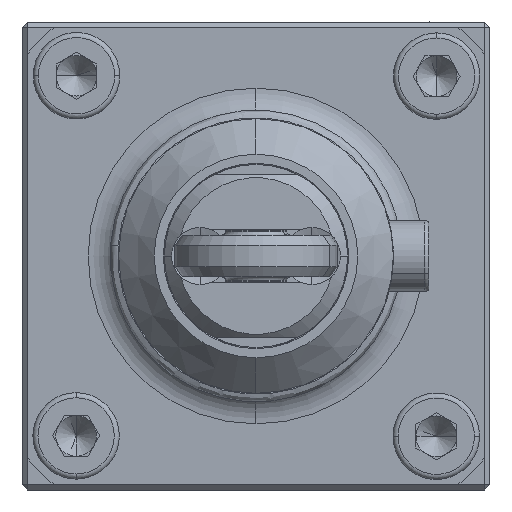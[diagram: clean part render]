
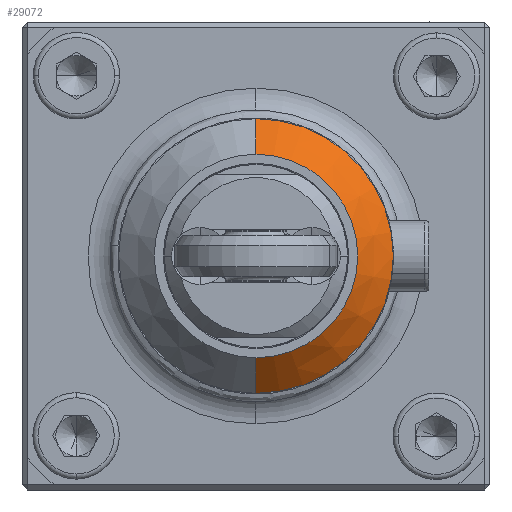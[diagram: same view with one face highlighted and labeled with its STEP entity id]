
A CAD part, left-side view. The second image highlights one B-rep face of the part: STEP entity #29072.
In plain terms, the highlighted conical face has half-angle 45 degrees and reference radius 13.5 mm.
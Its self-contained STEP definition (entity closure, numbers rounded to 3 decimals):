
#270 = DIRECTION ( 'NONE',  ( -1., 0., 0. ) ) ;
#1067 = CARTESIAN_POINT ( 'NONE',  ( -34.4, 0., 0. ) ) ;
#1162 = CARTESIAN_POINT ( 'NONE',  ( -37.9, 0., -10. ) ) ;
#1392 = LINE ( 'NONE', #30281, #18949 ) ;
#2579 = VECTOR ( 'NONE', #17925, 1000. ) ;
#2801 = ORIENTED_EDGE ( 'NONE', *, *, #20511, .F. ) ;
#2836 = ORIENTED_EDGE ( 'NONE', *, *, #28657, .T. ) ;
#3370 = VERTEX_POINT ( 'NONE', #15948 ) ;
#4903 = DIRECTION ( 'NONE',  ( 0., 0., -1. ) ) ;
#5149 = AXIS2_PLACEMENT_3D ( 'NONE', #26274, #270, #21543 ) ;
#5768 = CONICAL_SURFACE ( 'NONE', #14608, 13.5, 0.785 ) ;
#6140 = CARTESIAN_POINT ( 'NONE',  ( -34.4, 0., 13.5 ) ) ;
#7019 = ORIENTED_EDGE ( 'NONE', *, *, #23489, .T. ) ;
#8185 = AXIS2_PLACEMENT_3D ( 'NONE', #17067, #21751, #4903 ) ;
#8583 = DIRECTION ( 'NONE',  ( 0.707, 0., -0.707 ) ) ;
#9656 = LINE ( 'NONE', #6140, #2579 ) ;
#10167 = ORIENTED_EDGE ( 'NONE', *, *, #28884, .F. ) ;
#11716 = CIRCLE ( 'NONE', #5149, 13.5 ) ;
#12297 = VERTEX_POINT ( 'NONE', #24066 ) ;
#14608 = AXIS2_PLACEMENT_3D ( 'NONE', #1067, #17906, #20296 ) ;
#14887 = EDGE_LOOP ( 'NONE', ( #10167, #2836, #7019, #2801 ) ) ;
#15948 = CARTESIAN_POINT ( 'NONE',  ( -37.9, 0., 10. ) ) ;
#17067 = CARTESIAN_POINT ( 'NONE',  ( -37.9, 0., 0. ) ) ;
#17319 = VERTEX_POINT ( 'NONE', #17757 ) ;
#17757 = CARTESIAN_POINT ( 'NONE',  ( -34.4, 0., 13.5 ) ) ;
#17906 = DIRECTION ( 'NONE',  ( 1., 0., 0. ) ) ;
#17925 = DIRECTION ( 'NONE',  ( 0.707, 0., 0.707 ) ) ;
#18949 = VECTOR ( 'NONE', #8583, 1000. ) ;
#19268 = VERTEX_POINT ( 'NONE', #1162 ) ;
#20296 = DIRECTION ( 'NONE',  ( 0., 0., 1. ) ) ;
#20511 = EDGE_CURVE ( 'NONE', #3370, #17319, #9656, .T. ) ;
#21543 = DIRECTION ( 'NONE',  ( 0., 0., -1. ) ) ;
#21751 = DIRECTION ( 'NONE',  ( -1., 0., 0. ) ) ;
#23489 = EDGE_CURVE ( 'NONE', #12297, #17319, #11716, .T. ) ;
#24066 = CARTESIAN_POINT ( 'NONE',  ( -34.4, 0., -13.5 ) ) ;
#25638 = FACE_OUTER_BOUND ( 'NONE', #14887, .T. ) ;
#26274 = CARTESIAN_POINT ( 'NONE',  ( -34.4, 0., 0. ) ) ;
#26775 = CIRCLE ( 'NONE', #8185, 10. ) ;
#28657 = EDGE_CURVE ( 'NONE', #19268, #12297, #1392, .T. ) ;
#28884 = EDGE_CURVE ( 'NONE', #19268, #3370, #26775, .T. ) ;
#29072 = ADVANCED_FACE ( 'NONE', ( #25638 ), #5768, .T. ) ;
#30281 = CARTESIAN_POINT ( 'NONE',  ( -34.4, 0., -13.5 ) ) ;
